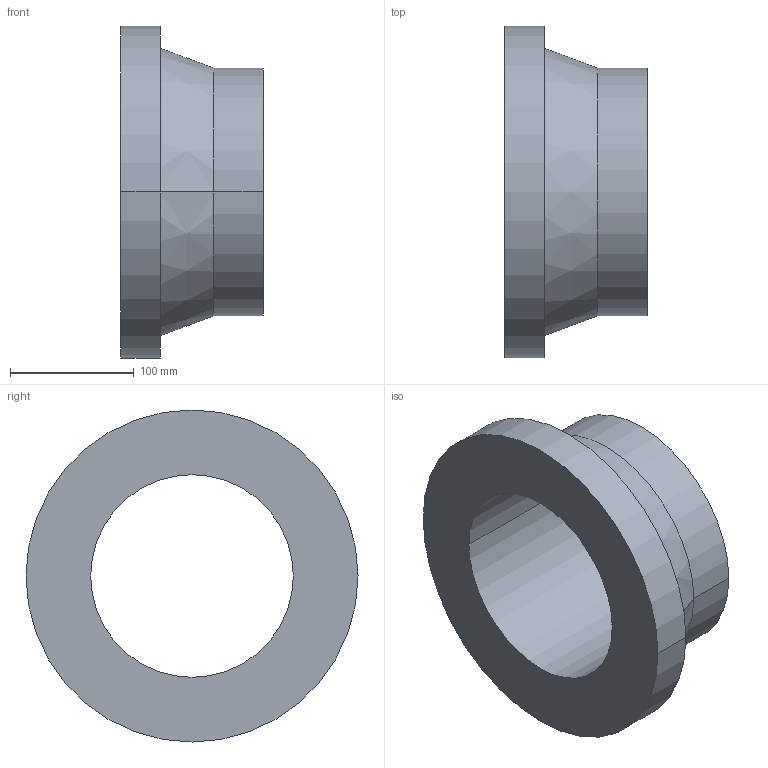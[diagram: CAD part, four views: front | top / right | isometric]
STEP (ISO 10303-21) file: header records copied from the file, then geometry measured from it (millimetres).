
FILE_DESCRIPTION( ( '' ), '1' );
FILE_NAME( 'R:/Engineering/Parts CD files/STP/Industrial Chem Proline/Stub End/581135080.stp', '2012-12-28T18:12:44', ( '' ), ( '' ), ' ', ' ', ' ' );
FILE_SCHEMA( ( 'CONFIG_CONTROL_DESIGN' ) );
Length unit declared in the file: millimetre
Products named in the file (1): 1
Bounding box: 115 x 268 x 268 mm (x, y, z)
Volume: 2222892.7 mm3; surface area: 202235.8 mm2
Topology: 1 solids, 1 shells, 11 faces, 22 edges, 14 vertices
Faces by surface type: cylinder 6, plane 3, cone 2
Entity records: 342 total; most frequent: DIRECTION 60, CARTESIAN_POINT 48, ORIENTED_EDGE 44, AXIS2_PLACEMENT_3D 26, EDGE_CURVE 22, EDGE_LOOP 14, VERTEX_POINT 14, CIRCLE 14
